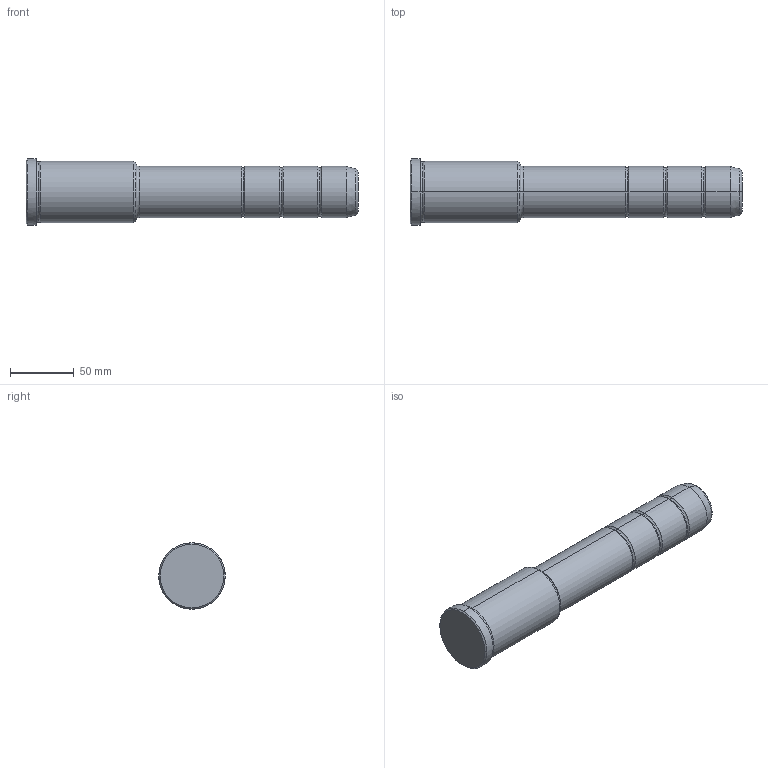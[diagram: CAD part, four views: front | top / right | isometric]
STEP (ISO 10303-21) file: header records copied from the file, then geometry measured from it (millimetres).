
FILE_DESCRIPTION(('CATIA V5 STEP Exchange'),'2;1');
FILE_NAME('C:\Users\Utente\Desktop\IO LAVORO\3D X SITO CF\X SITO\PLASTICA\351\351-40X86X260.stp','2021-10-07T14:14:05+00:00',('none'),('none'),'CATIA Version 5 Release 20 GA (IN-10)','CATIA V5 STEP AP203','none');
FILE_SCHEMA(('CONFIG_CONTROL_DESIGN'));
Length unit declared in the file: millimetre
Products named in the file (1): 351-40X86X260
Bounding box: 260 x 52 x 52 mm (x, y, z)
Volume: 374339.4 mm3; surface area: 38717.5 mm2
Topology: 1 solids, 1 shells, 42 faces, 118 edges, 80 vertices
Faces by surface type: torus 20, cylinder 12, cone 6, plane 4
Entity records: 1472 total; most frequent: CARTESIAN_POINT 353, ORIENTED_EDGE 236, DIRECTION 194, AXIS2_PLACEMENT_3D 135, EDGE_CURVE 118, CIRCLE 92, VERTEX_POINT 80, EDGE_LOOP 44
